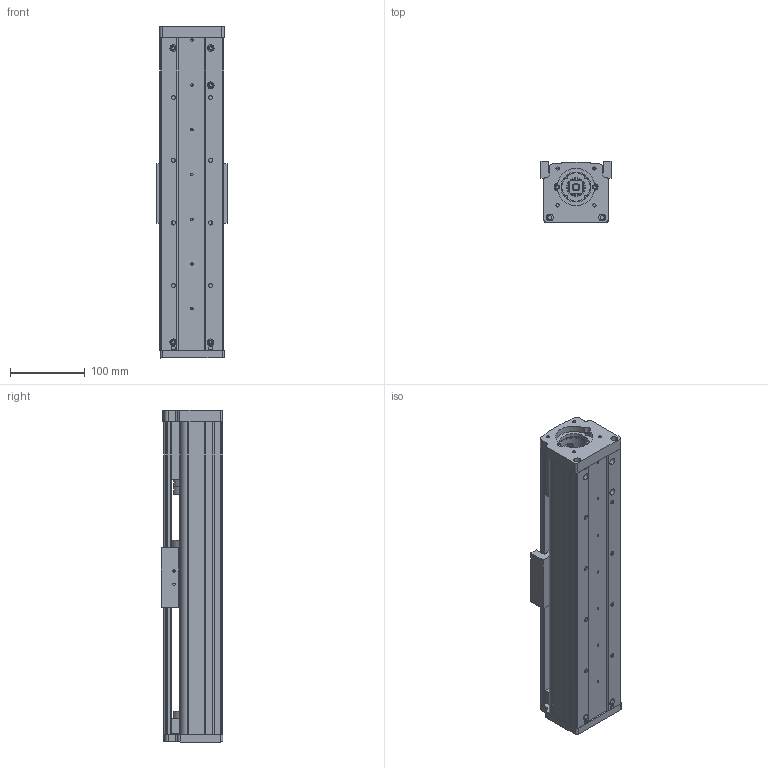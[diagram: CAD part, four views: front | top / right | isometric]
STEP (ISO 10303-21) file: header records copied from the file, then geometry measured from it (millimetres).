
FILE_DESCRIPTION (( 'STEP AP203' ), '1' );
FILE_NAME ('CF86-P200.STEP', '2016-03-10T06:16:43', ( 'Sky123.Org' ), ( 'Sky123.Org' ), 'SwSTEP 2.0', 'SolidWorks 2015', '' );
FILE_SCHEMA (( 'CONFIG_CONTROL_DESIGN' ));
Length unit declared in the file: millimetre
Products named in the file (18): CF86賑輸; SFU1610ĸ; 癹弇羲壽; 滅袉蝶菜; 86-60侜督萇儂釱; 01 86嘐隅釱; 86耜啣; CF86-P200; 02 86盓傅釱; 86-P420裔啣; angular contact ball bearings gb_Rolling bearings S7001 GB 292-94; 86-P420臏倰第; 95粣創裔啣; EGR15-P420絳寢; 坶踡蹟譫M12-1; EGW15CA賑輸; deep groove ball bearings gb_Rolling bearings 6001 GB 276-94; SFU1610-P420幗紩佪裝
Assembly tree (19 placements, depth 2):
  CF86-P200
    86耜啣
    86-P420裔啣
    86-P420臏倰第
    EGR15-P420絳寢
    EGW15CA賑輸
    SFU1610-P420幗紩佪裝
    SFU1610ĸ
    滅袉蝶菜  x2
    01 86嘐隅釱
    02 86盓傅釱
    angular contact ball bearings gb_Rolling bearings S7001 GB 292-94  x2
    95粣創裔啣
    坶踡蹟譫M12-1
    deep groove ball bearings gb_Rolling bearings 6001 GB 276-94
    CF86賑輸
    癹弇羲壽
    86-60侜督萇儂釱
Bounding box: 94 x 82.35 x 445 mm (x, y, z)
Volume: 1457325 mm3; surface area: 495944.4 mm2
Topology: 19 solids, 19 shells, 1201 faces, 3849 edges, 2573 vertices
Faces by surface type: cylinder 596, plane 354, torus 159, sphere 84, bspline 4, cone 4
Entity records: 66770 total; most frequent: CARTESIAN_POINT 36289, ORIENTED_EDGE 6342, DIRECTION 5747, EDGE_CURVE 3171, AXIS2_PLACEMENT_3D 2251, VERTEX_POINT 2116, EDGE_LOOP 1317, VECTOR 1245
